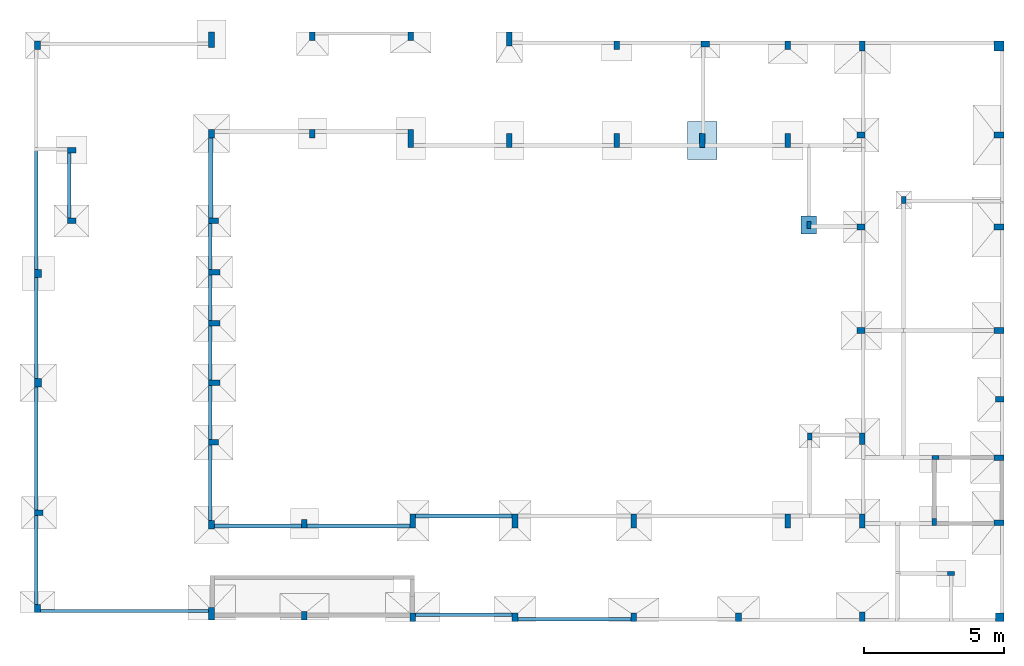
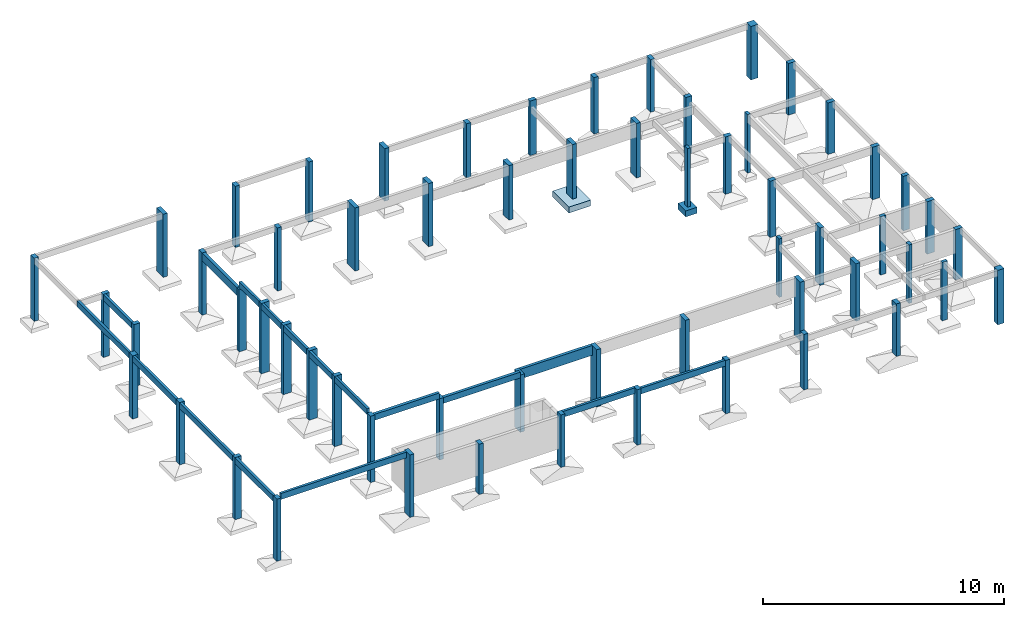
# One storey, part 1 of 5: 59 columns, 17 beams, 2 footings.
"""IFC4 building model written with IfcOpenShell, lengths in centimetres."""

from ifc_helpers import new_model, si_unit, derived_unit, frame, origin_with_axes, origin_2d_with_axis, place, context, project, spatial, rectangle, extrude, faceted_brep, material, element, save


model = new_model("IFC4")

# Units and contexts
model_context = context("Model", 3, precision=1e-05, world=origin_with_axes(), identifier="Body")
ifc_project = project(units=[si_unit("LENGTHUNIT", "METRE", prefix="CENTI"), si_unit("VOLUMEUNIT", "CUBIC_METRE"), si_unit("AREAUNIT", "SQUARE_METRE"), si_unit("POWERUNIT", "WATT"), si_unit("LUMINOUSFLUXUNIT", "LUMEN"), si_unit("ELECTRICCURRENTUNIT", "AMPERE"), si_unit("PRESSUREUNIT", "PASCAL", prefix="KILO"), si_unit("MASSUNIT", "GRAM", prefix="KILO"), si_unit("PLANEANGLEUNIT", "RADIAN"), derived_unit("VOLUMETRICFLOWRATEUNIT", [(si_unit("LENGTHUNIT", "METRE"), 3), (si_unit("TIMEUNIT", "SECOND"), -1)])], contexts=[model_context])

# Site, building, storey
site_placement = place(None, origin_with_axes())
site = spatial("IfcSite", under=ifc_project, at=site_placement)
building_placement = place(site_placement, frame((0.0, 0.0, -295.0)))
building = spatial("IfcBuilding", under=site, at=building_placement)
placement_1 = place(building_placement, origin_with_axes())
placement_2 = place(placement_1, frame((0.0, 0.0, 101.0), z_axis=(0.0, 0.0, 1.0), x_axis=(1.0, 0.0, 0.0)))
storey_placement = place(placement_2, frame((0.0, 0.0, 204.0), z_axis=(0.0, 0.0, 1.0), x_axis=(1.0, 0.0, 0.0)))
storey = spatial("IfcBuildingStorey", under=building, at=storey_placement, Name="TÉRREO", CompositionType="ELEMENT", Elevation=10.0)

# Footings
ifc_material = material(Name="Concreto")
footing_1_placement = place(storey_placement, frame((2938.28, -5459.62, -320.0), z_axis=(0.0, 0.0, 1.0), x_axis=(1.0, 0.0, 0.0)))
element("IfcFooting", 1, at=footing_1_placement, inside=storey, material=ifc_material, Name="P16", PredefinedType="PAD_FOOTING", context=model_context, shape_type="SolidModel", body=[
    faceted_brep([(-52.5, 67.5, -30.0), (52.5, 67.5, -30.0), (52.5, -67.5, -30.0), (-52.5, -67.5, -30.0), (-52.5, -67.5, 0.0), (52.5, -67.5, 0.0), (52.5, 67.5, 0.0), (-52.5, 67.5, 0.0)], [[[0, 1, 2, 3]], [[4, 5, 6, 7]], [[4, 3, 5]], [[3, 2, 5]], [[5, 2, 6]], [[2, 1, 6]], [[6, 1, 7]], [[1, 0, 7]], [[7, 0, 4]], [[0, 3, 4]]]),
])
footing_2_placement = place(storey_placement, frame((3319.4, -5761.05, -320.0), z_axis=(0.0, 0.0, 1.0), x_axis=(1.0, 0.0, 0.0)))
element("IfcFooting", 2, at=footing_2_placement, inside=storey, material=ifc_material, Name="P24", PredefinedType="PAD_FOOTING", context=model_context, shape_type="SolidModel", body=[
    faceted_brep([(-27.5, 32.5, -30.0), (27.5, 32.5, -30.0), (27.5, -32.5, -30.0), (-27.5, -32.5, -30.0), (-27.5, -32.5, 0.0), (27.5, -32.5, 0.0), (27.5, 32.5, 0.0), (-27.5, 32.5, 0.0)], [[[0, 1, 2, 3]], [[4, 5, 6, 7]], [[4, 3, 5]], [[3, 2, 5]], [[5, 2, 6]], [[2, 1, 6]], [[6, 1, 7]], [[1, 0, 7]], [[7, 0, 4]], [[0, 3, 4]]]),
])

# Columns
column_1_placement = place(storey_placement, frame((561.73, -5119.55, 0.0), z_axis=(0.0, 0.0, 1.0), x_axis=(1.0, 0.0, 0.0)))
element("IfcColumn", 3, at=column_1_placement, inside=storey, material=ifc_material, Name="P1", context=model_context, shape_type="SolidModel", body=[
    extrude(rectangle(XDim=20.0, YDim=30.0, at=origin_2d_with_axis()), frame((0.0, 0.0, -320.0), z_axis=(0.0, 0.0, 1.0), x_axis=(1.0, 0.0, 0.0)), (0.0, 0.0, 1.0), 320.0),
])
column_2_placement = place(storey_placement, frame((3999.26, -5122.05, -24.0), z_axis=(0.0, 0.0, 1.0), x_axis=(1.0, 0.0, 0.0)))
element("IfcColumn", 4, at=column_2_placement, inside=storey, material=ifc_material, Name="P10", context=model_context, shape_type="SolidModel", body=[
    extrude(rectangle(XDim=35.0, YDim=35.0, at=origin_2d_with_axis()), frame((0.0, 0.0, 0.0), z_axis=(0.0, 0.0, 1.0), x_axis=(0.0, -1.0, 0.0)), (0.0, 0.0, -1.0), 271.0),
])
column_3_placement = place(storey_placement, frame((1183.9, -5434.69, 0.0), z_axis=(0.0, 0.0, 1.0), x_axis=(1.0, 0.0, 0.0)))
element("IfcColumn", 5, at=column_3_placement, inside=storey, material=ifc_material, Name="P11", context=model_context, shape_type="SolidModel", body=[
    extrude(rectangle(XDim=20.0, YDim=30.0, at=origin_2d_with_axis()), frame((0.0, 0.0, -315.0), z_axis=(0.0, 0.0, 1.0), x_axis=(1.0, 0.0, 0.0)), (0.0, 0.0, 1.0), 315.0),
])
column_4_placement = place(storey_placement, frame((1544.4, -5434.69, 0.0), z_axis=(0.0, 0.0, 1.0), x_axis=(1.0, 0.0, 0.0)))
element("IfcColumn", 6, at=column_4_placement, inside=storey, material=ifc_material, Name="P12", context=model_context, shape_type="SolidModel", body=[
    extrude(rectangle(XDim=20.0, YDim=30.0, at=origin_2d_with_axis()), frame((0.0, 0.0, -320.0), z_axis=(0.0, 0.0, 1.0), x_axis=(1.0, 0.0, 0.0)), (0.0, 0.0, 1.0), 320.0),
])
column_5_placement = place(storey_placement, frame((1895.85, -5452.19, 0.0), z_axis=(0.0, 0.0, 1.0), x_axis=(1.0, 0.0, 0.0)))
element("IfcColumn", 7, at=column_5_placement, inside=storey, material=ifc_material, Name="P13", context=model_context, shape_type="SolidModel", body=[
    extrude(rectangle(XDim=20.0, YDim=65.0, at=origin_2d_with_axis()), frame((0.0, 0.0, -320.0), z_axis=(0.0, 0.0, 1.0), x_axis=(1.0, 0.0, 0.0)), (0.0, 0.0, 1.0), 320.0),
])
column_6_placement = place(storey_placement, frame((2248.73, -5459.62, 0.0), z_axis=(0.0, 0.0, 1.0), x_axis=(1.0, 0.0, 0.0)))
element("IfcColumn", 8, at=column_6_placement, inside=storey, material=ifc_material, Name="P14", context=model_context, shape_type="SolidModel", body=[
    extrude(rectangle(XDim=20.0, YDim=50.0, at=origin_2d_with_axis()), frame((0.0, 0.0, -320.0), z_axis=(0.0, 0.0, 1.0), x_axis=(1.0, 0.0, 0.0)), (0.0, 0.0, 1.0), 320.0),
])
for number, where, z_axis, x_axis, name in (
    (9, (2632.84, -5459.62, -44.0), (0.0, 0.0, 1.0), (1.0, 0.0, 0.0), "P15"),
    (10, (2938.28, -5459.62, -44.0), (0.0, 0.0, 1.0), (1.0, 0.0, 0.0), "P16"),
    (11, (3243.73, -5459.62, -44.0), (0.0, 0.0, 1.0), (1.0, 0.0, 0.0), "P17"),
):
    element("IfcColumn", number, at=place(storey_placement, frame(where, z_axis=z_axis, x_axis=x_axis)), inside=storey, material=ifc_material, Name=name, context=model_context, shape_type="SolidModel", body=[
        extrude(rectangle(XDim=20.0, YDim=50.0, at=origin_2d_with_axis()), frame((0.0, 0.0, -276.0), z_axis=(0.0, 0.0, 1.0), x_axis=(1.0, 0.0, 0.0)), (0.0, 0.0, 1.0), 276.0),
    ])
column_7_placement = place(storey_placement, frame((3505.71, -5439.69, -24.0), z_axis=(0.0, 0.0, 1.0), x_axis=(1.0, 0.0, 0.0)))
element("IfcColumn", 12, at=column_7_placement, inside=storey, material=ifc_material, Name="P18", context=model_context, shape_type="SolidModel", body=[
    extrude(rectangle(XDim=20.0, YDim=30.0, at=origin_2d_with_axis()), frame((0.0, 0.0, -291.0), z_axis=(0.0, 0.0, 1.0), x_axis=(0.0, -1.0, 0.0)), (0.0, 0.0, 1.0), 291.0),
])
column_8_placement = place(storey_placement, frame((3999.24, -5439.69, -24.0), z_axis=(0.0, 0.0, 1.0), x_axis=(1.0, 0.0, 0.0)))
element("IfcColumn", 13, at=column_8_placement, inside=storey, material=ifc_material, Name="P19", context=model_context, shape_type="SolidModel", body=[
    extrude(rectangle(XDim=20.0, YDim=35.0, at=origin_2d_with_axis()), frame((0.0, 0.0, -261.0), z_axis=(0.0, 0.0, 1.0), x_axis=(0.0, -1.0, 0.0)), (0.0, 0.0, 1.0), 261.0),
])
column_9_placement = place(storey_placement, frame((1183.9, -5098.61, 0.0), z_axis=(0.0, 0.0, 1.0), x_axis=(1.0, 0.0, 0.0)))
element("IfcColumn", 14, at=column_9_placement, inside=storey, material=ifc_material, Name="P2", context=model_context, shape_type="SolidModel", body=[
    extrude(rectangle(XDim=20.0, YDim=55.0, at=origin_2d_with_axis()), frame((0.0, 0.0, -320.0), z_axis=(0.0, 0.0, 1.0), x_axis=(1.0, 0.0, 0.0)), (0.0, 0.0, 1.0), 320.0),
])
column_10_placement = place(storey_placement, frame((683.93, -5494.16, 0.0), z_axis=(0.0, 0.0, 1.0), x_axis=(1.0, 0.0, 0.0)))
element("IfcColumn", 15, at=column_10_placement, inside=storey, material=ifc_material, Name="P20", context=model_context, shape_type="SolidModel", body=[
    extrude(rectangle(XDim=20.0, YDim=30.0, at=origin_2d_with_axis()), frame((0.0, 0.0, -320.0), z_axis=(0.0, 0.0, 1.0), x_axis=(0.0, 1.0, 0.0)), (0.0, 0.0, 1.0), 320.0),
])
column_11_placement = place(storey_placement, frame((3658.23, -5672.05, -24.0), z_axis=(0.0, 0.0, 1.0), x_axis=(1.0, 0.0, 0.0)))
element("IfcColumn", 16, at=column_11_placement, inside=storey, material=ifc_material, Name="P21", context=model_context, shape_type="SolidModel", body=[
    extrude(rectangle(XDim=15.0, YDim=25.0, at=origin_2d_with_axis()), frame((0.0, 0.0, -296.0), z_axis=(0.0, 0.0, 1.0), x_axis=(1.0, 0.0, 0.0)), (0.0, 0.0, 1.0), 296.0),
])
column_12_placement = place(storey_placement, frame((683.93, -5746.84, 0.0), z_axis=(0.0, 0.0, 1.0), x_axis=(1.0, 0.0, 0.0)))
element("IfcColumn", 17, at=column_12_placement, inside=storey, material=ifc_material, Name="P22", context=model_context, shape_type="SolidModel", body=[
    extrude(rectangle(XDim=20.0, YDim=30.0, at=origin_2d_with_axis()), frame((0.0, 0.0, -315.0), z_axis=(0.0, 0.0, 1.0), x_axis=(0.0, 1.0, 0.0)), (0.0, 0.0, 1.0), 315.0),
])
column_13_placement = place(storey_placement, frame((1191.4, -5746.84, 0.0), z_axis=(0.0, 0.0, 1.0), x_axis=(1.0, 0.0, 0.0)))
element("IfcColumn", 18, at=column_13_placement, inside=storey, material=ifc_material, Name="P23", context=model_context, shape_type="SolidModel", body=[
    extrude(rectangle(XDim=20.0, YDim=35.0, at=origin_2d_with_axis()), frame((0.0, 0.0, -315.0), z_axis=(0.0, 0.0, 1.0), x_axis=(0.0, 1.0, 0.0)), (0.0, 0.0, 1.0), 315.0),
])
column_14_placement = place(storey_placement, frame((3319.4, -5761.05, -24.0), z_axis=(0.0, 0.0, 1.0), x_axis=(1.0, 0.0, 0.0)))
element("IfcColumn", 19, at=column_14_placement, inside=storey, material=ifc_material, Name="P24", context=model_context, shape_type="SolidModel", body=[
    extrude(rectangle(XDim=15.0, YDim=25.0, at=origin_2d_with_axis()), frame((0.0, 0.0, -296.0), z_axis=(0.0, 0.0, 1.0), x_axis=(1.0, 0.0, 0.0)), (0.0, 0.0, 1.0), 296.0),
])
column_15_placement = place(storey_placement, frame((3505.73, -5768.55, -24.0), z_axis=(0.0, 0.0, 1.0), x_axis=(1.0, 0.0, 0.0)))
element("IfcColumn", 20, at=column_15_placement, inside=storey, material=ifc_material, Name="P25", context=model_context, shape_type="SolidModel", body=[
    extrude(rectangle(XDim=20.0, YDim=30.0, at=origin_2d_with_axis()), frame((0.0, 0.0, -291.0), z_axis=(0.0, 0.0, 1.0), x_axis=(0.0, -1.0, 0.0)), (0.0, 0.0, 1.0), 291.0),
])
column_16_placement = place(storey_placement, frame((3999.26, -5768.55, -24.0), z_axis=(0.0, 0.0, 1.0), x_axis=(1.0, 0.0, 0.0)))
element("IfcColumn", 21, at=column_16_placement, inside=storey, material=ifc_material, Name="P26", context=model_context, shape_type="SolidModel", body=[
    extrude(rectangle(XDim=20.0, YDim=35.0, at=origin_2d_with_axis()), frame((0.0, 0.0, -261.0), z_axis=(0.0, 0.0, 1.0), x_axis=(0.0, -1.0, 0.0)), (0.0, 0.0, 1.0), 261.0),
])
column_17_placement = place(storey_placement, frame((564.23, -5934.85, 0.0), z_axis=(0.0, 0.0, 1.0), x_axis=(1.0, 0.0, 0.0)))
element("IfcColumn", 22, at=column_17_placement, inside=storey, material=ifc_material, Name="P27", context=model_context, shape_type="SolidModel", body=[
    extrude(rectangle(XDim=25.0, YDim=30.0, at=origin_2d_with_axis()), frame((0.0, 0.0, -320.0), z_axis=(0.0, 0.0, 1.0), x_axis=(1.0, 0.0, 0.0)), (0.0, 0.0, 1.0), 320.0),
])
column_18_placement = place(storey_placement, frame((1193.9, -5929.85, 41.0), z_axis=(0.0, 0.0, 1.0), x_axis=(1.0, 0.0, 0.0)))
element("IfcColumn", 23, at=column_18_placement, inside=storey, material=ifc_material, Name="P28", context=model_context, shape_type="SolidModel", body=[
    extrude(rectangle(XDim=20.0, YDim=40.0, at=origin_2d_with_axis()), frame((0.0, 0.0, -356.0), z_axis=(0.0, 0.0, 1.0), x_axis=(0.0, -1.0, 0.0)), (0.0, 0.0, 1.0), 356.0),
])
column_19_placement = place(storey_placement, frame((1193.9, -6112.7, 41.0), z_axis=(0.0, 0.0, 1.0), x_axis=(1.0, 0.0, 0.0)))
element("IfcColumn", 24, at=column_19_placement, inside=storey, material=ifc_material, Name="P29", context=model_context, shape_type="SolidModel", body=[
    extrude(rectangle(XDim=20.0, YDim=40.0, at=origin_2d_with_axis()), frame((0.0, 0.0, -351.0), z_axis=(0.0, 0.0, 1.0), x_axis=(0.0, 1.0, 0.0)), (0.0, 0.0, 1.0), 351.0),
])
column_20_placement = place(storey_placement, frame((1544.4, -5086.11, 0.0), z_axis=(0.0, 0.0, 1.0), x_axis=(1.0, 0.0, 0.0)))
element("IfcColumn", 25, at=column_20_placement, inside=storey, material=ifc_material, Name="P3", context=model_context, shape_type="SolidModel", body=[
    extrude(rectangle(XDim=20.0, YDim=30.0, at=origin_2d_with_axis()), frame((0.0, 0.0, -310.0), z_axis=(0.0, 0.0, 1.0), x_axis=(1.0, 0.0, 0.0)), (0.0, 0.0, 1.0), 310.0),
])
column_21_placement = place(storey_placement, frame((3505.73, -6138.55, -24.0), z_axis=(0.0, 0.0, 1.0), x_axis=(1.0, 0.0, 0.0)))
element("IfcColumn", 26, at=column_21_placement, inside=storey, material=ifc_material, Name="P30", context=model_context, shape_type="SolidModel", body=[
    extrude(rectangle(XDim=20.0, YDim=30.0, at=origin_2d_with_axis()), frame((0.0, 0.0, -286.0), z_axis=(0.0, 0.0, 1.0), x_axis=(0.0, -1.0, 0.0)), (0.0, 0.0, 1.0), 286.0),
])
column_22_placement = place(storey_placement, frame((3999.26, -6138.55, -24.0), z_axis=(0.0, 0.0, 1.0), x_axis=(1.0, 0.0, 0.0)))
element("IfcColumn", 27, at=column_22_placement, inside=storey, material=ifc_material, Name="P31", context=model_context, shape_type="SolidModel", body=[
    extrude(rectangle(XDim=20.0, YDim=35.0, at=origin_2d_with_axis()), frame((0.0, 0.0, -266.0), z_axis=(0.0, 0.0, 1.0), x_axis=(0.0, -1.0, 0.0)), (0.0, 0.0, 1.0), 266.0),
])
column_23_placement = place(storey_placement, frame((564.23, -6325.62, 0.0), z_axis=(0.0, 0.0, 1.0), x_axis=(1.0, 0.0, 0.0)))
element("IfcColumn", 28, at=column_23_placement, inside=storey, material=ifc_material, Name="P32", context=model_context, shape_type="SolidModel", body=[
    extrude(rectangle(XDim=25.0, YDim=30.0, at=origin_2d_with_axis()), frame((0.0, 0.0, -315.0), z_axis=(0.0, 0.0, 1.0), x_axis=(1.0, 0.0, 0.0)), (0.0, 0.0, 1.0), 315.0),
])
column_24_placement = place(storey_placement, frame((1193.9, -6325.62, 41.0), z_axis=(0.0, 0.0, 1.0), x_axis=(1.0, 0.0, 0.0)))
element("IfcColumn", 29, at=column_24_placement, inside=storey, material=ifc_material, Name="P33", context=model_context, shape_type="SolidModel", body=[
    extrude(rectangle(XDim=20.0, YDim=40.0, at=origin_2d_with_axis()), frame((0.0, 0.0, -351.0), z_axis=(0.0, 0.0, 1.0), x_axis=(0.0, 1.0, 0.0)), (0.0, 0.0, 1.0), 351.0),
])
column_25_placement = place(storey_placement, frame((4001.76, -6384.65, -24.0), z_axis=(0.0, 0.0, 1.0), x_axis=(1.0, 0.0, 0.0)))
element("IfcColumn", 30, at=column_25_placement, inside=storey, material=ifc_material, Name="P34", context=model_context, shape_type="SolidModel", body=[
    extrude(rectangle(XDim=20.0, YDim=30.0, at=origin_2d_with_axis()), frame((0.0, 0.0, -276.0), z_axis=(0.0, 0.0, 1.0), x_axis=(0.0, -1.0, 0.0)), (0.0, 0.0, 1.0), 276.0),
])
column_26_placement = place(storey_placement, frame((1191.4, -6538.55, 41.0), z_axis=(0.0, 0.0, 1.0), x_axis=(1.0, 0.0, 0.0)))
element("IfcColumn", 31, at=column_26_placement, inside=storey, material=ifc_material, Name="P35", context=model_context, shape_type="SolidModel", body=[
    extrude(rectangle(XDim=20.0, YDim=35.0, at=origin_2d_with_axis()), frame((0.0, 0.0, -356.0), z_axis=(0.0, 0.0, 1.0), x_axis=(0.0, 1.0, 0.0)), (0.0, 0.0, 1.0), 356.0),
])
column_27_placement = place(storey_placement, frame((3322.23, -6516.7, -24.0), z_axis=(0.0, 0.0, 1.0), x_axis=(1.0, 0.0, 0.0)))
element("IfcColumn", 32, at=column_27_placement, inside=storey, material=ifc_material, Name="P36", context=model_context, shape_type="SolidModel", body=[
    extrude(rectangle(XDim=15.0, YDim=25.0, at=origin_2d_with_axis()), frame((0.0, 0.0, -296.0), z_axis=(0.0, 0.0, 1.0), x_axis=(1.0, 0.0, 0.0)), (0.0, 0.0, 1.0), 296.0),
])
column_28_placement = place(storey_placement, frame((3510.73, -6525.55, -24.0), z_axis=(0.0, 0.0, 1.0), x_axis=(1.0, 0.0, 0.0)))
element("IfcColumn", 33, at=column_28_placement, inside=storey, material=ifc_material, Name="P37", context=model_context, shape_type="SolidModel", body=[
    extrude(rectangle(XDim=20.0, YDim=40.0, at=origin_2d_with_axis()), frame((0.0, 0.0, -291.0), z_axis=(0.0, 0.0, 1.0), x_axis=(1.0, 0.0, 0.0)), (0.0, 0.0, 1.0), 291.0),
])
column_29_placement = place(storey_placement, frame((3772.23, -6592.81, -24.0), z_axis=(0.0, 0.0, 1.0), x_axis=(1.0, 0.0, 0.0)))
element("IfcColumn", 34, at=column_29_placement, inside=storey, material=ifc_material, Name="P38", context=model_context, shape_type="SolidModel", body=[
    extrude(rectangle(XDim=15.0, YDim=25.0, at=origin_2d_with_axis()), frame((0.0, 0.0, -296.0), z_axis=(0.0, 0.0, 1.0), x_axis=(0.0, 1.0, 0.0)), (0.0, 0.0, 1.0), 296.0),
])
column_30_placement = place(storey_placement, frame((3999.23, -6592.81, -24.0), z_axis=(0.0, 0.0, 1.0), x_axis=(1.0, 0.0, 0.0)))
element("IfcColumn", 35, at=column_30_placement, inside=storey, material=ifc_material, Name="P39", context=model_context, shape_type="SolidModel", body=[
    extrude(rectangle(XDim=20.0, YDim=35.0, at=origin_2d_with_axis()), frame((0.0, 0.0, -266.0), z_axis=(0.0, 0.0, 1.0), x_axis=(0.0, -1.0, 0.0)), (0.0, 0.0, 1.0), 266.0),
])
column_31_placement = place(storey_placement, frame((1895.85, -5086.11, 0.0), z_axis=(0.0, 0.0, 1.0), x_axis=(1.0, 0.0, 0.0)))
element("IfcColumn", 36, at=column_31_placement, inside=storey, material=ifc_material, Name="P4", context=model_context, shape_type="SolidModel", body=[
    extrude(rectangle(XDim=20.0, YDim=30.0, at=origin_2d_with_axis()), frame((0.0, 0.0, -305.0), z_axis=(0.0, 0.0, 1.0), x_axis=(1.0, 0.0, 0.0)), (0.0, 0.0, 1.0), 305.0),
])
column_32_placement = place(storey_placement, frame((566.73, -6790.04, 0.0), z_axis=(0.0, 0.0, 1.0), x_axis=(1.0, 0.0, 0.0)))
element("IfcColumn", 37, at=column_32_placement, inside=storey, material=ifc_material, Name="P40", context=model_context, shape_type="SolidModel", body=[
    extrude(rectangle(XDim=20.0, YDim=30.0, at=origin_2d_with_axis()), frame((0.0, 0.0, -315.0), z_axis=(0.0, 0.0, 1.0), x_axis=(0.0, 1.0, 0.0)), (0.0, 0.0, 1.0), 315.0),
])
column_33_placement = place(storey_placement, frame((1183.9, -6833.35, 21.0), z_axis=(0.0, 0.0, 1.0), x_axis=(1.0, 0.0, 0.0)))
element("IfcColumn", 38, at=column_33_placement, inside=storey, material=ifc_material, Name="P41", context=model_context, shape_type="SolidModel", body=[
    extrude(rectangle(XDim=20.0, YDim=30.0, at=origin_2d_with_axis()), frame((0.0, 0.0, -336.0), z_axis=(0.0, 0.0, 1.0), x_axis=(1.0, 0.0, 0.0)), (0.0, 0.0, 1.0), 336.0),
])
column_34_placement = place(storey_placement, frame((1515.96, -6829.2, -9.0), z_axis=(0.0, 0.0, 1.0), x_axis=(1.0, 0.0, 0.0)))
element("IfcColumn", 39, at=column_34_placement, inside=storey, material=ifc_material, Name="P42", context=model_context, shape_type="SolidModel", body=[
    extrude(rectangle(XDim=20.0, YDim=30.0, at=origin_2d_with_axis()), frame((0.0, 0.0, -311.0), z_axis=(0.0, 0.0, 1.0), x_axis=(1.0, 0.0, 0.0)), (0.0, 0.0, 1.0), 311.0),
])
for number, where, z_axis, x_axis, name in (
    (40, (1903.6, -6819.2, -24.0), (0.0, 0.0, 1.0), (1.0, 0.0, 0.0), "P43"),
    (41, (2268.73, -6819.2, -24.0), (0.0, 0.0, 1.0), (1.0, 0.0, 0.0), "P44"),
    (42, (2693.6, -6819.2, -24.0), (0.0, 0.0, 1.0), (1.0, 0.0, 0.0), "P45"),
):
    element("IfcColumn", number, at=place(storey_placement, frame(where, z_axis=z_axis, x_axis=x_axis)), inside=storey, material=ifc_material, Name=name, context=model_context, shape_type="SolidModel", body=[
        extrude(rectangle(XDim=20.0, YDim=50.0, at=origin_2d_with_axis()), frame((0.0, 0.0, -291.0), z_axis=(0.0, 0.0, 1.0), x_axis=(1.0, 0.0, 0.0)), (0.0, 0.0, 1.0), 291.0),
    ])
column_35_placement = place(storey_placement, frame((3243.73, -6819.2, -24.0), z_axis=(0.0, 0.0, 1.0), x_axis=(1.0, 0.0, 0.0)))
element("IfcColumn", 43, at=column_35_placement, inside=storey, material=ifc_material, Name="P46", context=model_context, shape_type="SolidModel", body=[
    extrude(rectangle(XDim=20.0, YDim=50.0, at=origin_2d_with_axis()), frame((0.0, 0.0, -296.0), z_axis=(0.0, 0.0, 1.0), x_axis=(1.0, 0.0, 0.0)), (0.0, 0.0, 1.0), 296.0),
])
column_36_placement = place(storey_placement, frame((3510.73, -6819.2, -24.0), z_axis=(0.0, 0.0, 1.0), x_axis=(1.0, 0.0, 0.0)))
element("IfcColumn", 44, at=column_36_placement, inside=storey, material=ifc_material, Name="P47", context=model_context, shape_type="SolidModel", body=[
    extrude(rectangle(XDim=20.0, YDim=50.0, at=origin_2d_with_axis()), frame((0.0, 0.0, -291.0), z_axis=(0.0, 0.0, 1.0), x_axis=(1.0, 0.0, 0.0)), (0.0, 0.0, 1.0), 291.0),
])
column_37_placement = place(storey_placement, frame((3767.23, -6823.79, -24.0), z_axis=(0.0, 0.0, 1.0), x_axis=(1.0, 0.0, 0.0)))
element("IfcColumn", 45, at=column_37_placement, inside=storey, material=ifc_material, Name="P48", context=model_context, shape_type="SolidModel", body=[
    extrude(rectangle(XDim=15.0, YDim=25.0, at=origin_2d_with_axis()), frame((0.0, 0.0, -296.0), z_axis=(0.0, 0.0, 1.0), x_axis=(1.0, 0.0, 0.0)), (0.0, 0.0, 1.0), 296.0),
])
column_38_placement = place(storey_placement, frame((3999.25, -6826.29, -24.0), z_axis=(0.0, 0.0, 1.0), x_axis=(1.0, 0.0, 0.0)))
element("IfcColumn", 46, at=column_38_placement, inside=storey, material=ifc_material, Name="P49", context=model_context, shape_type="SolidModel", body=[
    extrude(rectangle(XDim=20.0, YDim=35.0, at=origin_2d_with_axis()), frame((0.0, 0.0, -256.0), z_axis=(0.0, 0.0, 1.0), x_axis=(0.0, -1.0, 0.0)), (0.0, 0.0, 1.0), 256.0),
])
column_39_placement = place(storey_placement, frame((2248.73, -5096.25, -44.0), z_axis=(0.0, 0.0, 1.0), x_axis=(1.0, 0.0, 0.0)))
element("IfcColumn", 47, at=column_39_placement, inside=storey, material=ifc_material, Name="P5", context=model_context, shape_type="SolidModel", body=[
    extrude(rectangle(XDim=20.0, YDim=50.0, at=origin_2d_with_axis()), frame((0.0, 0.0, -266.0), z_axis=(0.0, 0.0, 1.0), x_axis=(1.0, 0.0, 0.0)), (0.0, 0.0, 1.0), 266.0),
])
column_40_placement = place(storey_placement, frame((3828.09, -7006.81, -24.0), z_axis=(0.0, 0.0, 1.0), x_axis=(1.0, 0.0, 0.0)))
element("IfcColumn", 48, at=column_40_placement, inside=storey, material=ifc_material, Name="P50", context=model_context, shape_type="SolidModel", body=[
    extrude(rectangle(XDim=15.0, YDim=25.0, at=origin_2d_with_axis()), frame((0.0, 0.0, -296.0), z_axis=(0.0, 0.0, 1.0), x_axis=(0.0, -1.0, 0.0)), (0.0, 0.0, 1.0), 296.0),
])
column_41_placement = place(storey_placement, frame((561.73, -7132.2, 0.0), z_axis=(0.0, 0.0, 1.0), x_axis=(1.0, 0.0, 0.0)))
element("IfcColumn", 49, at=column_41_placement, inside=storey, material=ifc_material, Name="P51", context=model_context, shape_type="SolidModel", body=[
    extrude(rectangle(XDim=20.0, YDim=30.0, at=origin_2d_with_axis()), frame((0.0, 0.0, -315.0), z_axis=(0.0, 0.0, 1.0), x_axis=(-1.0, 0.0, 0.0)), (0.0, 0.0, 1.0), 315.0),
])
column_42_placement = place(storey_placement, frame((1183.9, -7150.43, 22.0), z_axis=(0.0, 0.0, 1.0), x_axis=(1.0, 0.0, 0.0)))
element("IfcColumn", 50, at=column_42_placement, inside=storey, material=ifc_material, Name="P52", context=model_context, shape_type="SolidModel", body=[
    extrude(rectangle(XDim=20.0, YDim=45.0, at=origin_2d_with_axis()), frame((0.0, 0.0, -317.0), z_axis=(0.0, 0.0, 1.0), x_axis=(-1.0, 0.0, 0.0)), (0.0, 0.0, 1.0), 317.0),
])
column_43_placement = place(storey_placement, frame((1515.96, -7157.93, -40.0), z_axis=(0.0, 0.0, 1.0), x_axis=(1.0, 0.0, 0.0)))
element("IfcColumn", 51, at=column_43_placement, inside=storey, material=ifc_material, Name="P53", context=model_context, shape_type="SolidModel", body=[
    extrude(rectangle(XDim=20.0, YDim=30.0, at=origin_2d_with_axis()), frame((0.0, 0.0, -255.0), z_axis=(0.0, 0.0, 1.0), x_axis=(-1.0, 0.0, 0.0)), (0.0, 0.0, 1.0), 255.0),
])
column_44_placement = place(storey_placement, frame((1903.6, -7164.31, -24.0), z_axis=(0.0, 0.0, 1.0), x_axis=(1.0, 0.0, 0.0)))
element("IfcColumn", 52, at=column_44_placement, inside=storey, material=ifc_material, Name="P54", context=model_context, shape_type="SolidModel", body=[
    extrude(rectangle(XDim=20.0, YDim=30.0, at=origin_2d_with_axis()), frame((0.0, 0.0, -266.0), z_axis=(0.0, 0.0, 1.0), x_axis=(-1.0, 0.0, 0.0)), (0.0, 0.0, 1.0), 266.0),
])
column_45_placement = place(storey_placement, frame((2268.73, -7164.31, -24.0), z_axis=(0.0, 0.0, 1.0), x_axis=(1.0, 0.0, 0.0)))
element("IfcColumn", 53, at=column_45_placement, inside=storey, material=ifc_material, Name="P55", context=model_context, shape_type="SolidModel", body=[
    extrude(rectangle(XDim=20.0, YDim=30.0, at=origin_2d_with_axis()), frame((0.0, 0.0, -281.0), z_axis=(0.0, 0.0, 1.0), x_axis=(-1.0, 0.0, 0.0)), (0.0, 0.0, 1.0), 281.0),
])
column_46_placement = place(storey_placement, frame((2693.6, -7164.31, -24.0), z_axis=(0.0, 0.0, 1.0), x_axis=(1.0, 0.0, 0.0)))
element("IfcColumn", 54, at=column_46_placement, inside=storey, material=ifc_material, Name="P56", context=model_context, shape_type="SolidModel", body=[
    extrude(rectangle(XDim=20.0, YDim=30.0, at=origin_2d_with_axis()), frame((0.0, 0.0, -271.0), z_axis=(0.0, 0.0, 1.0), x_axis=(-1.0, 0.0, 0.0)), (0.0, 0.0, 1.0), 271.0),
])
column_47_placement = place(storey_placement, frame((3067.54, -7164.31, -24.0), z_axis=(0.0, 0.0, 1.0), x_axis=(1.0, 0.0, 0.0)))
element("IfcColumn", 55, at=column_47_placement, inside=storey, material=ifc_material, Name="P57", context=model_context, shape_type="SolidModel", body=[
    extrude(rectangle(XDim=20.0, YDim=30.0, at=origin_2d_with_axis()), frame((0.0, 0.0, -281.0), z_axis=(0.0, 0.0, 1.0), x_axis=(-1.0, 0.0, 0.0)), (0.0, 0.0, 1.0), 281.0),
])
column_48_placement = place(storey_placement, frame((3510.73, -7161.81, -24.0), z_axis=(0.0, 0.0, 1.0), x_axis=(1.0, 0.0, 0.0)))
element("IfcColumn", 56, at=column_48_placement, inside=storey, material=ifc_material, Name="P58", context=model_context, shape_type="SolidModel", body=[
    extrude(rectangle(XDim=20.0, YDim=35.0, at=origin_2d_with_axis()), frame((0.0, 0.0, -266.0), z_axis=(0.0, 0.0, 1.0), x_axis=(-1.0, 0.0, 0.0)), (0.0, 0.0, 1.0), 266.0),
])
column_49_placement = place(storey_placement, frame((4001.76, -7164.31, -24.0), z_axis=(0.0, 0.0, 1.0), x_axis=(1.0, 0.0, 0.0)))
element("IfcColumn", 57, at=column_49_placement, inside=storey, material=ifc_material, Name="P59", context=model_context, shape_type="SolidModel", body=[
    extrude(rectangle(XDim=30.0, YDim=30.0, at=origin_2d_with_axis()), frame((0.0, 0.0, 0.0), z_axis=(0.0, 0.0, 1.0), x_axis=(0.0, -1.0, 0.0)), (0.0, 0.0, -1.0), 276.0),
])
column_50_placement = place(storey_placement, frame((2632.84, -5119.55, -44.0), z_axis=(0.0, 0.0, 1.0), x_axis=(1.0, 0.0, 0.0)))
element("IfcColumn", 58, at=column_50_placement, inside=storey, material=ifc_material, Name="P6", context=model_context, shape_type="SolidModel", body=[
    extrude(rectangle(XDim=20.0, YDim=30.0, at=origin_2d_with_axis()), frame((0.0, 0.0, -276.0), z_axis=(0.0, 0.0, 1.0), x_axis=(1.0, 0.0, 0.0)), (0.0, 0.0, 1.0), 276.0),
])
column_51_placement = place(storey_placement, frame((2948.28, -5114.55, -44.0), z_axis=(0.0, 0.0, 1.0), x_axis=(1.0, 0.0, 0.0)))
element("IfcColumn", 59, at=column_51_placement, inside=storey, material=ifc_material, Name="P7", context=model_context, shape_type="SolidModel", body=[
    extrude(rectangle(XDim=20.0, YDim=30.0, at=origin_2d_with_axis()), frame((0.0, 0.0, -276.0), z_axis=(0.0, 0.0, 1.0), x_axis=(0.0, -1.0, 0.0)), (0.0, 0.0, 1.0), 276.0),
])
column_52_placement = place(storey_placement, frame((3243.73, -5119.55, -24.0), z_axis=(0.0, 0.0, 1.0), x_axis=(1.0, 0.0, 0.0)))
element("IfcColumn", 60, at=column_52_placement, inside=storey, material=ifc_material, Name="P8", context=model_context, shape_type="SolidModel", body=[
    extrude(rectangle(XDim=20.0, YDim=30.0, at=origin_2d_with_axis()), frame((0.0, 0.0, -286.0), z_axis=(0.0, 0.0, 1.0), x_axis=(1.0, 0.0, 0.0)), (0.0, 0.0, 1.0), 286.0),
])
column_53_placement = place(storey_placement, frame((3510.73, -5122.05, -24.0), z_axis=(0.0, 0.0, 1.0), x_axis=(1.0, 0.0, 0.0)))
element("IfcColumn", 61, at=column_53_placement, inside=storey, material=ifc_material, Name="P9", context=model_context, shape_type="SolidModel", body=[
    extrude(rectangle(XDim=20.0, YDim=35.0, at=origin_2d_with_axis()), frame((0.0, 0.0, -266.0), z_axis=(0.0, 0.0, 1.0), x_axis=(1.0, 0.0, 0.0)), (0.0, 0.0, 1.0), 266.0),
])

# Beams
beam_1_placement = place(storey_placement, frame((1349.93, -6837.2, 21.0), z_axis=(0.0, 0.0, 1.0), x_axis=(1.0, 0.0, 0.0)))
element("IfcBeam", 62, at=beam_1_placement, inside=storey, material=ifc_material, Name="VB17", context=model_context, shape_type="SolidModel", body=[
    extrude(rectangle(XDim=14.0, YDim=30.0, at=origin_2d_with_axis()), frame((-156.03, 0.0, -15.0), z_axis=(1.0, 0.0, 0.0), x_axis=(0.0, -1.0, 0.0)), (0.0, 0.0, 1.0), 312.06),
])
beam_2_placement = place(storey_placement, frame((1709.78, -6837.2, -9.0), z_axis=(0.0, 0.0, 1.0), x_axis=(1.0, 0.0, 0.0)))
element("IfcBeam", 63, at=beam_2_placement, inside=storey, material=ifc_material, Name="VB18", context=model_context, shape_type="SolidModel", body=[
    extrude(rectangle(XDim=14.0, YDim=30.0, at=origin_2d_with_axis()), frame((-183.82, 0.0, -15.0), z_axis=(1.0, 0.0, 0.0), x_axis=(0.0, -1.0, 0.0)), (0.0, 0.0, 1.0), 367.64),
])
beam_3_placement = place(storey_placement, frame((2086.165, -6801.2, -24.0), z_axis=(0.0, 0.0, 1.0), x_axis=(1.0, 0.0, 0.0)))
element("IfcBeam", 64, at=beam_3_placement, inside=storey, material=ifc_material, Name="VB19", context=model_context, shape_type="SolidModel", body=[
    extrude(rectangle(XDim=14.0, YDim=50.0, at=origin_2d_with_axis()), frame((-172.565, 0.0, -25.0), z_axis=(1.0, 0.0, 0.0), x_axis=(0.0, -1.0, 0.0)), (0.0, 0.0, 1.0), 345.13),
])
beam_4_placement = place(storey_placement, frame((872.815, -7141.2, 22.0), z_axis=(0.0, 0.0, 1.0), x_axis=(1.0, 0.0, 0.0)))
element("IfcBeam", 65, at=beam_4_placement, inside=storey, material=ifc_material, Name="VB25", context=model_context, shape_type="SolidModel", body=[
    extrude(rectangle(XDim=12.0, YDim=30.0, at=origin_2d_with_axis()), frame((-301.085, 0.0, -15.0), z_axis=(1.0, 0.0, 0.0), x_axis=(0.0, -1.0, 0.0)), (0.0, 0.0, 1.0), 602.17),
])
beam_5_placement = place(storey_placement, frame((2086.165, -7155.31, -24.0), z_axis=(0.0, 0.0, 1.0), x_axis=(1.0, 0.0, 0.0)))
element("IfcBeam", 66, at=beam_5_placement, inside=storey, material=ifc_material, Name="VB26", context=model_context, shape_type="SolidModel", body=[
    extrude(rectangle(XDim=12.0, YDim=30.0, at=origin_2d_with_axis()), frame((-172.565, 0.0, -15.0), z_axis=(1.0, 0.0, 0.0), x_axis=(0.0, -1.0, 0.0)), (0.0, 0.0, 1.0), 345.13),
])
beam_6_placement = place(storey_placement, frame((2481.165, -7170.85, -24.0), z_axis=(0.0, 0.0, 1.0), x_axis=(1.0, 0.0, 0.0)))
element("IfcBeam", 67, at=beam_6_placement, inside=storey, material=ifc_material, Name="VB27", context=model_context, shape_type="SolidModel", body=[
    extrude(rectangle(XDim=12.0, YDim=30.0, at=origin_2d_with_axis()), frame((-202.435, 0.0, -15.0), z_axis=(1.0, 0.0, 0.0), x_axis=(0.0, -1.0, 0.0)), (0.0, 0.0, 1.0), 404.87),
])
beam_7_placement = place(storey_placement, frame((557.73, -6560.33, 0.0), z_axis=(0.0, 0.0, 1.0), x_axis=(1.0, 0.0, 0.0)))
element("IfcBeam", 68, at=beam_7_placement, inside=storey, material=ifc_material, Name="VB30", context=model_context, shape_type="SolidModel", body=[
    extrude(rectangle(XDim=12.0, YDim=30.0, at=origin_2d_with_axis()), frame((0.0, -219.71, -15.0), z_axis=(0.0, 1.0, 0.0), x_axis=(1.0, 0.0, 0.0)), (0.0, 0.0, 1.0), 439.42),
])
beam_8_placement = place(storey_placement, frame((557.73, -6958.62, 0.0), z_axis=(0.0, 0.0, 1.0), x_axis=(1.0, 0.0, 0.0)))
element("IfcBeam", 69, at=beam_8_placement, inside=storey, material=ifc_material, Name="VB30", context=model_context, shape_type="SolidModel", body=[
    extrude(rectangle(XDim=12.0, YDim=30.0, at=origin_2d_with_axis()), frame((0.0, -158.58, -15.0), z_axis=(0.0, 1.0, 0.0), x_axis=(1.0, 0.0, 0.0)), (0.0, 0.0, 1.0), 317.16),
])
beam_9_placement = place(storey_placement, frame((557.73, -6130.235, 0.0), z_axis=(0.0, 0.0, 1.0), x_axis=(1.0, 0.0, 0.0)))
element("IfcBeam", 70, at=beam_9_placement, inside=storey, material=ifc_material, Name="VB30", context=model_context, shape_type="SolidModel", body=[
    extrude(rectangle(XDim=12.0, YDim=30.0, at=origin_2d_with_axis()), frame((0.0, -180.385, -15.0), z_axis=(0.0, 1.0, 0.0), x_axis=(1.0, 0.0, 0.0)), (0.0, 0.0, 1.0), 360.77),
])
beam_10_placement = place(storey_placement, frame((557.73, -5705.005, 0.0), z_axis=(0.0, 0.0, 1.0), x_axis=(1.0, 0.0, 0.0)))
element("IfcBeam", 71, at=beam_10_placement, inside=storey, material=ifc_material, Name="VB30", context=model_context, shape_type="SolidModel", body=[
    extrude(rectangle(XDim=12.0, YDim=30.0, at=origin_2d_with_axis()), frame((0.0, -214.845, -15.0), z_axis=(0.0, 1.0, 0.0), x_axis=(1.0, 0.0, 0.0)), (0.0, 0.0, 1.0), 429.69),
])
beam_11_placement = place(storey_placement, frame((674.93, -5620.5, 0.0), z_axis=(0.0, 0.0, 1.0), x_axis=(1.0, 0.0, 0.0)))
element("IfcBeam", 72, at=beam_11_placement, inside=storey, material=ifc_material, Name="VB31", context=model_context, shape_type="SolidModel", body=[
    extrude(rectangle(XDim=12.0, YDim=30.0, at=origin_2d_with_axis()), frame((0.0, -116.34, -15.0), z_axis=(0.0, 1.0, 0.0), x_axis=(1.0, 0.0, 0.0)), (0.0, 0.0, 1.0), 232.68),
])
beam_12_placement = place(storey_placement, frame((1179.9, -6683.45, 41.0), z_axis=(0.0, 0.0, 1.0), x_axis=(1.0, 0.0, 0.0)))
element("IfcBeam", 73, at=beam_12_placement, inside=storey, material=ifc_material, Name="VB32", context=model_context, shape_type="SolidModel", body=[
    extrude(rectangle(XDim=12.0, YDim=30.0, at=origin_2d_with_axis()), frame((0.0, -134.9, -15.0), z_axis=(0.0, 1.0, 0.0), x_axis=(1.0, 0.0, 0.0)), (0.0, 0.0, 1.0), 269.8),
])
beam_13_placement = place(storey_placement, frame((1179.9, -6219.16, 41.0), z_axis=(0.0, 0.0, 1.0), x_axis=(1.0, 0.0, 0.0)))
element("IfcBeam", 74, at=beam_13_placement, inside=storey, material=ifc_material, Name="VB33", context=model_context, shape_type="SolidModel", body=[
    extrude(rectangle(XDim=12.0, YDim=30.0, at=origin_2d_with_axis()), frame((0.0, -96.46, -15.0), z_axis=(0.0, 1.0, 0.0), x_axis=(1.0, 0.0, 0.0)), (0.0, 0.0, 1.0), 192.92),
])
beam_14_placement = place(storey_placement, frame((1179.9, -6021.275, 41.0), z_axis=(0.0, 0.0, 1.0), x_axis=(1.0, 0.0, 0.0)))
element("IfcBeam", 75, at=beam_14_placement, inside=storey, material=ifc_material, Name="VB33", context=model_context, shape_type="SolidModel", body=[
    extrude(rectangle(XDim=12.0, YDim=30.0, at=origin_2d_with_axis()), frame((0.0, -81.425, -15.0), z_axis=(0.0, 1.0, 0.0), x_axis=(1.0, 0.0, 0.0)), (0.0, 0.0, 1.0), 162.85),
])
beam_15_placement = place(storey_placement, frame((1179.9, -6432.085, 41.0), z_axis=(0.0, 0.0, 1.0), x_axis=(1.0, 0.0, 0.0)))
element("IfcBeam", 76, at=beam_15_placement, inside=storey, material=ifc_material, Name="VB33", context=model_context, shape_type="SolidModel", body=[
    extrude(rectangle(XDim=12.0, YDim=30.0, at=origin_2d_with_axis()), frame((0.0, -96.465, -15.0), z_axis=(0.0, 1.0, 0.0), x_axis=(1.0, 0.0, 0.0)), (0.0, 0.0, 1.0), 192.93),
])
beam_16_placement = place(storey_placement, frame((1179.9, -5838.345, 41.0), z_axis=(0.0, 0.0, 1.0), x_axis=(1.0, 0.0, 0.0)))
element("IfcBeam", 77, at=beam_16_placement, inside=storey, material=ifc_material, Name="VB33", context=model_context, shape_type="SolidModel", body=[
    extrude(rectangle(XDim=12.0, YDim=30.0, at=origin_2d_with_axis()), frame((0.0, -81.505, -15.0), z_axis=(0.0, 1.0, 0.0), x_axis=(1.0, 0.0, 0.0)), (0.0, 0.0, 1.0), 163.01),
])
beam_17_placement = place(storey_placement, frame((1181.4, -5593.265, 0.0), z_axis=(0.0, 0.0, 1.0), x_axis=(1.0, 0.0, 0.0)))
element("IfcBeam", 78, at=beam_17_placement, inside=storey, material=ifc_material, Name="VB34", context=model_context, shape_type="SolidModel", body=[
    extrude(rectangle(XDim=15.0, YDim=40.0, at=origin_2d_with_axis()), frame((0.0, -143.575, -20.0), z_axis=(0.0, 1.0, 0.0), x_axis=(1.0, 0.0, 0.0)), (0.0, 0.0, 1.0), 287.15),
])

save(model, "model.ifc")
